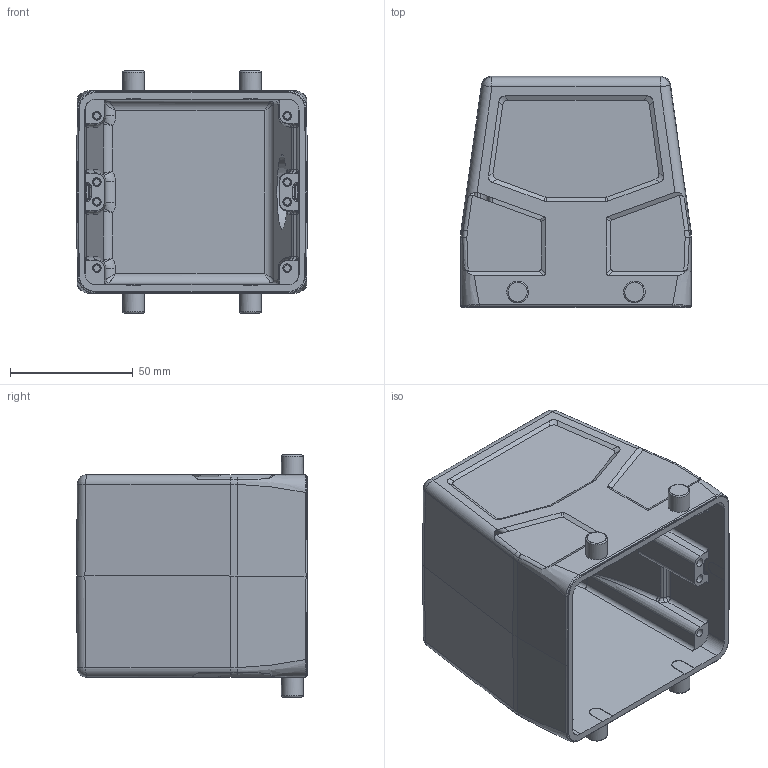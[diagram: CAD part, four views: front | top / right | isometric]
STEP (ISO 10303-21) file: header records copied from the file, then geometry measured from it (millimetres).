
FILE_DESCRIPTION (( 'STEP AP203' ), '1' );
FILE_NAME ('H32B-TS-M32.STEP', '2023-06-13T07:36:22', ( '' ), ( '' ), 'SwSTEP 2.0', 'SolidWorks 2016', '' );
FILE_SCHEMA (( 'CONFIG_CONTROL_DESIGN' ));
Length unit declared in the file: millimetre
Products named in the file (1): H32B-TS-M32
Bounding box: 94 x 94 x 98.5 mm (x, y, z)
Volume: 163482.2 mm3; surface area: 71622.4 mm2
Topology: 1 solids, 1 shells, 351 faces, 915 edges, 573 vertices
Faces by surface type: cylinder 132, plane 127, bspline 54, torus 16, cone 12, sphere 10
Full cylindrical faces by diameter (mm): 2.7 x8, 3.5 x8, 8.8 x4, 30.5 x1
Entity records: 18064 total; most frequent: CARTESIAN_POINT 10733, ORIENTED_EDGE 1736, DIRECTION 1086, EDGE_CURVE 868, VERTEX_POINT 566, EDGE_LOOP 400, B_SPLINE_CURVE_WITH_KNOTS 380, FACE_OUTER_BOUND 376
